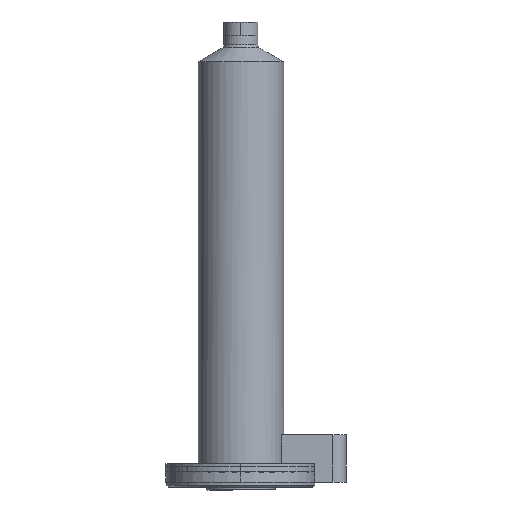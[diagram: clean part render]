
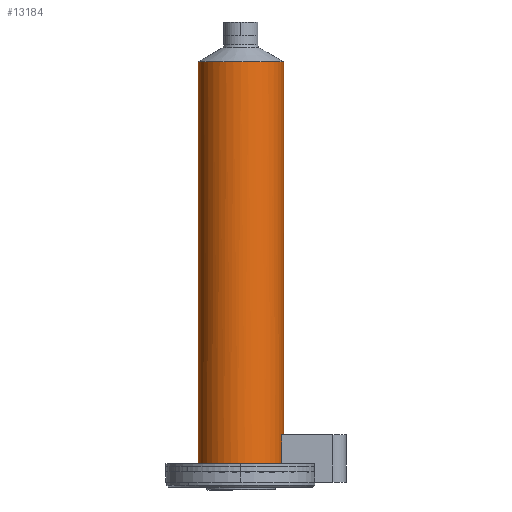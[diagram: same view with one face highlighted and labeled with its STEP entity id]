
A CAD part, front view. The second image highlights one B-rep face of the part: STEP entity #13184.
In plain terms, the highlighted cylindrical face has radius 32.5 mm (diameter 65 mm), a partial arc.
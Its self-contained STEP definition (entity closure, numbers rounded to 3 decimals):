
#648 = VERTEX_POINT ( 'NONE', #4669 ) ;
#654 = VERTEX_POINT ( 'NONE', #4649 ) ;
#693 = VERTEX_POINT ( 'NONE', #4516 ) ;
#714 = VERTEX_POINT ( 'NONE', #4435 ) ;
#724 = VERTEX_POINT ( 'NONE', #4400 ) ;
#729 = VERTEX_POINT ( 'NONE', #4386 ) ;
#3468 = CARTESIAN_POINT ( 'NONE',  ( 0., 0., 42. ) ) ;
#3469 = DIRECTION ( 'NONE',  ( 0., 0., -1. ) ) ;
#3470 = DIRECTION ( 'NONE',  ( 1., 0., 0. ) ) ;
#3471 = CARTESIAN_POINT ( 'NONE',  ( 32.5, 0., 376. ) ) ;
#3472 = DIRECTION ( 'NONE',  ( 0., 0., 1. ) ) ;
#3473 = CARTESIAN_POINT ( 'NONE',  ( 0., 0., 325.682 ) ) ;
#3474 = DIRECTION ( 'NONE',  ( 0., 0., 1. ) ) ;
#3475 = DIRECTION ( 'NONE',  ( -1., 0., 0. ) ) ;
#3476 = CARTESIAN_POINT ( 'NONE',  ( -32.5, 0., 376. ) ) ;
#3477 = DIRECTION ( 'NONE',  ( 0., 0., 1. ) ) ;
#3478 = CARTESIAN_POINT ( 'NONE',  ( 0., 0., 20. ) ) ;
#3479 = DIRECTION ( 'NONE',  ( 0., 0., 1. ) ) ;
#3480 = DIRECTION ( 'NONE',  ( 0., 1., 0. ) ) ;
#3481 = CARTESIAN_POINT ( 'NONE',  ( 30.923, -10., 6. ) ) ;
#3482 = DIRECTION ( 'NONE',  ( 0., 0., -1. ) ) ;
#4363 = DIRECTION ( 'NONE',  ( -1., 0., 0. ) ) ;
#4364 = DIRECTION ( 'NONE',  ( 0., 0., 1. ) ) ;
#4365 = CARTESIAN_POINT ( 'NONE',  ( 0., 0., 376. ) ) ;
#4386 = CARTESIAN_POINT ( 'NONE',  ( 30.923, -10., 20. ) ) ;
#4400 = CARTESIAN_POINT ( 'NONE',  ( 32.5, 0., 42. ) ) ;
#4435 = CARTESIAN_POINT ( 'NONE',  ( 30.923, -10., 42. ) ) ;
#4516 = CARTESIAN_POINT ( 'NONE',  ( -32.5, 0., 325.682 ) ) ;
#4649 = CARTESIAN_POINT ( 'NONE',  ( -32.5, 0., 20. ) ) ;
#4669 = CARTESIAN_POINT ( 'NONE',  ( 32.5, 0., 325.682 ) ) ;
#5078 = VECTOR ( 'NONE', #3482, 1000. ) ;
#5079 = CIRCLE ( 'NONE', #6477, 32.5 ) ;
#5080 = LINE ( 'NONE', #3481, #5078 ) ;
#5081 = CIRCLE ( 'NONE', #6476, 32.5 ) ;
#5082 = VECTOR ( 'NONE', #3477, 1000. ) ;
#5083 = LINE ( 'NONE', #3476, #5082 ) ;
#5084 = VECTOR ( 'NONE', #3472, 1000. ) ;
#5085 = CIRCLE ( 'NONE', #6475, 32.5 ) ;
#5086 = LINE ( 'NONE', #3471, #5084 ) ;
#6475 = AXIS2_PLACEMENT_3D ( 'NONE', #3468, #3469, #3470 ) ;
#6476 = AXIS2_PLACEMENT_3D ( 'NONE', #3473, #3474, #3475 ) ;
#6477 = AXIS2_PLACEMENT_3D ( 'NONE', #3478, #3479, #3480 ) ;
#6629 = CYLINDRICAL_SURFACE ( 'NONE', #18804, 32.5 ) ;
#6639 = FACE_OUTER_BOUND ( 'NONE', #17937, .T. ) ;
#6709 = ORIENTED_EDGE ( 'NONE', *, *, #18672, .F. ) ;
#6711 = ORIENTED_EDGE ( 'NONE', *, *, #18673, .T. ) ;
#6716 = ORIENTED_EDGE ( 'NONE', *, *, #18675, .F. ) ;
#6717 = ORIENTED_EDGE ( 'NONE', *, *, #18674, .F. ) ;
#6723 = ORIENTED_EDGE ( 'NONE', *, *, #18676, .T. ) ;
#6724 = ORIENTED_EDGE ( 'NONE', *, *, #18677, .F. ) ;
#13184 = ADVANCED_FACE ( 'NONE', ( #6639 ), #6629, .T. ) ;
#17937 = EDGE_LOOP ( 'NONE', ( #6709, #6711, #6717, #6716, #6723, #6724 ) ) ;
#18672 = EDGE_CURVE ( 'NONE', #724, #714, #5085, .T. ) ;
#18673 = EDGE_CURVE ( 'NONE', #724, #648, #5086, .T. ) ;
#18674 = EDGE_CURVE ( 'NONE', #693, #648, #5081, .T. ) ;
#18675 = EDGE_CURVE ( 'NONE', #654, #693, #5083, .T. ) ;
#18676 = EDGE_CURVE ( 'NONE', #654, #729, #5079, .T. ) ;
#18677 = EDGE_CURVE ( 'NONE', #714, #729, #5080, .T. ) ;
#18804 = AXIS2_PLACEMENT_3D ( 'NONE', #4365, #4364, #4363 ) ;
